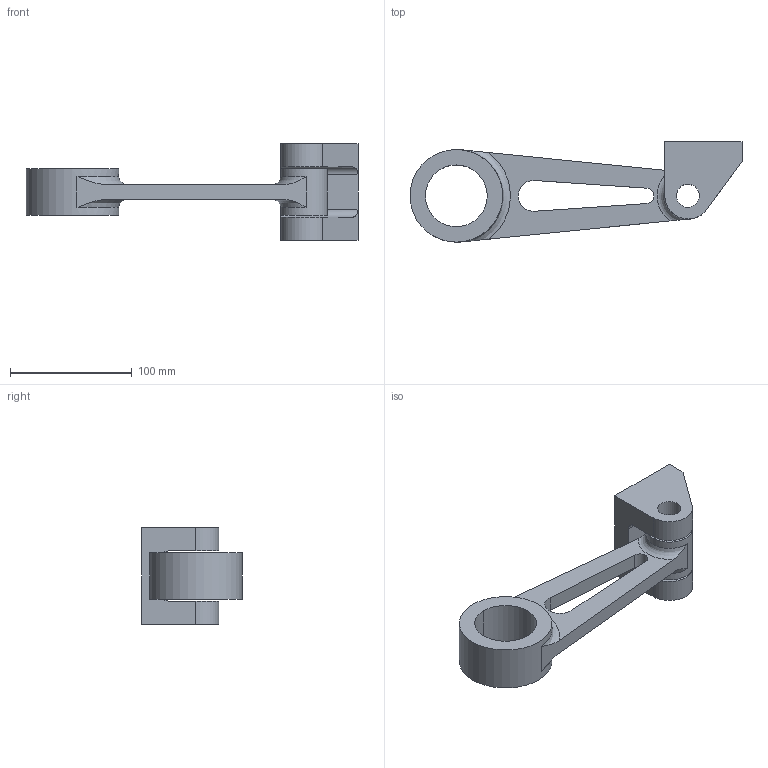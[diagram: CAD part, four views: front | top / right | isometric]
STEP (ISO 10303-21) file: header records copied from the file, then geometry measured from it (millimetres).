
FILE_DESCRIPTION((''),'2;1');
FILE_NAME('D:\Backup\Autodesk CMU Course\Week 10 - Nonlinear Structural Analysis\Projects\Project 1\Yoke and Clevis Assembly.stp','2012-03-08T17:16:03',('dmm70056'),(''),'Autodesk Inventor 2012','Autodesk Inventor 2012','');
FILE_SCHEMA(('AUTOMOTIVE_DESIGN { 1 0 10303 214 1 1 1 1 }'));
Length unit declared in the file: inch
Products named in the file (3): Yoke and Clevis Assembly; Yoke; Clevis
Assembly tree (2 placements, depth 2):
  Yoke and Clevis Assembly
    Yoke
    Clevis
Bounding box: 273.05 x 82.55 x 79.38 mm (x, y, z)
Volume: 356910.4 mm3; surface area: 72140.6 mm2
Topology: 2 solids, 2 shells, 37 faces, 98 edges, 66 vertices
Faces by surface type: plane 20, cylinder 13, torus 4
Full cylindrical faces by diameter (mm): 19.05 x2, 20.32 x1, 38.1 x1, 76.2 x1
Entity records: 1321 total; most frequent: CARTESIAN_POINT 308, DIRECTION 198, ORIENTED_EDGE 180, EDGE_CURVE 90, AXIS2_PLACEMENT_3D 77, VERTEX_POINT 64, EDGE_LOOP 54, VECTOR 44
